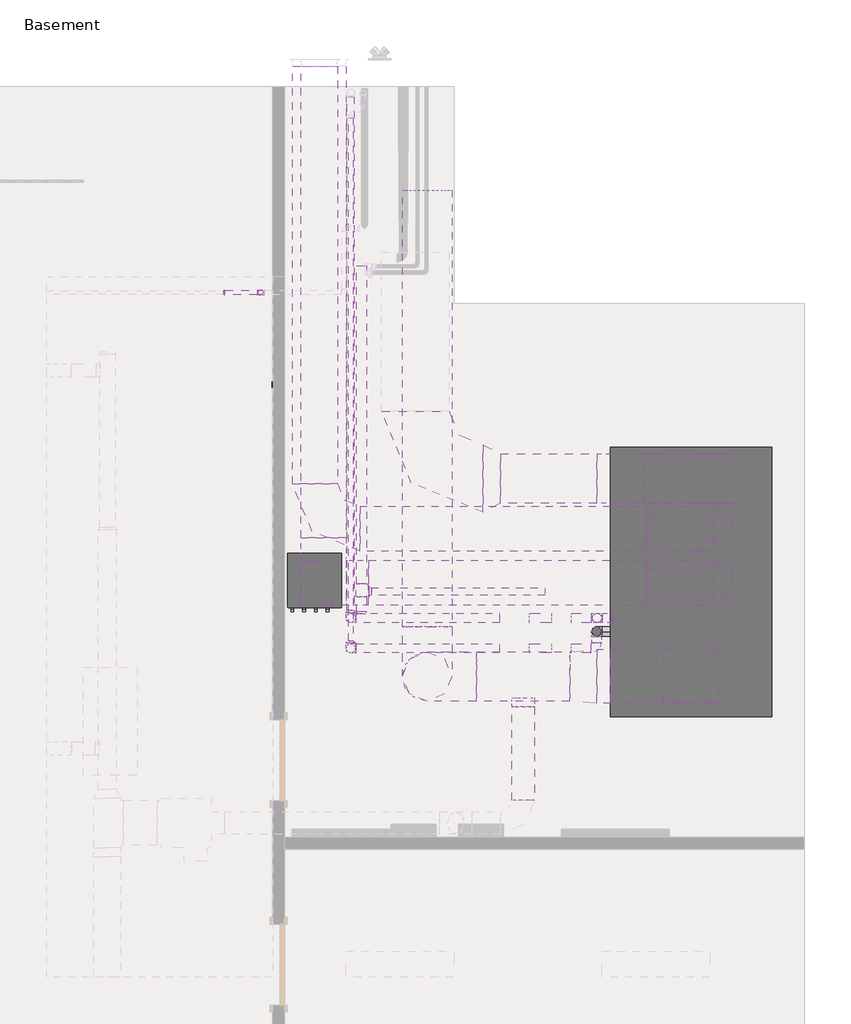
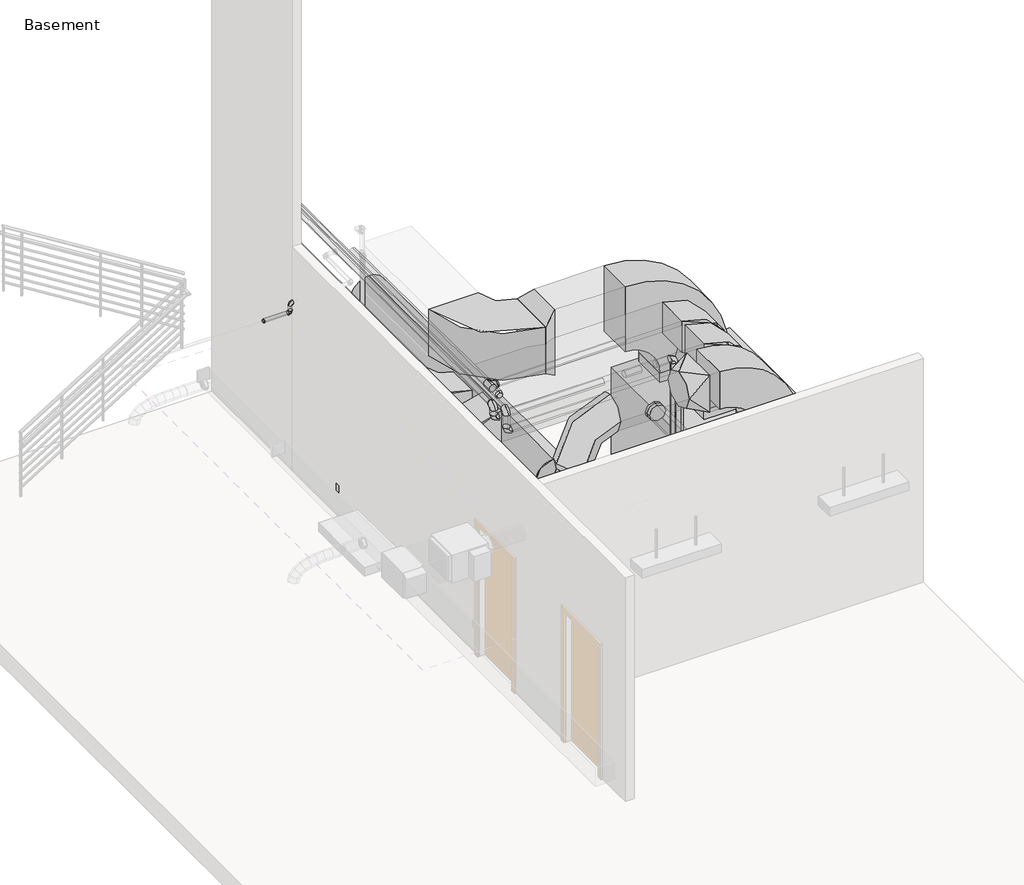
# One storey, part 5 of 6: 20 pipe segments, 18 pipe fittings, 16 duct segments, 15 duct fittings, 4 proxies.
"""IFC4 building model written with IfcOpenShell, lengths in millimetres."""

from ifc_helpers import new_model, si_unit, point, frame, frame_2d, origin, place, context, project, spatial, polyline, circle_curve, trimmed, segment, composite_curve, outline, extrude, transform, mapped, element, save
from components import air_handler_10_ton_c50fa258, proxy_5f9e3781, pipe_dcw_origin_standard_a8ebccfd, receptacle_gfci_367a9a66, rectangular_duct_radius_elbow_1_w_26603e4f, rectangular_duct_radius_elbow_1_w_7e1641f4, rectangular_duct_radius_elbow_1_w_6f893059, rectangular_duct_radius_elbow_1_5_w_59ea73c2, rectangular_duct_transition_standard_a217cb40, rectangular_duct_transition_standard_87278069, rectangular_duct_transition_standard_40ad1b43, rectangular_to_round_duct_transition_standard_41359ecd, round_duct_elbow_1_d_d87bec81, round_duct_takeoff_standard_e5792325, pipe_elbow_standard_764eecca, pipe_elbow1_standard_2_0a98076e, pipe_pvc_short_sanitary_tee1_standard_2_5010286e, pipe_pvc_transition_eccentric_standard_bb942d7d, pipe_pvc_transition_eccentric_standard_b1f971f5, pipe_straight_coupling_standard_a74dfd1f, pipe_transition_eccentric_standard_ae9cfb6a, pipe_transition_eccentric_standard_33081ec6, pipe_transition_eccentric_standard_3b8d3413

model = new_model("IFC4")

# Units and contexts
model_context = context("Model", 3, world=origin())
ifc_project = project(units=[si_unit("LENGTHUNIT", "METRE", prefix="MILLI")], contexts=[model_context])

# Site, building, storey
site = spatial("IfcSite", under=ifc_project)
building = spatial("IfcBuilding", under=site)
storey = spatial("IfcBuildingStorey", under=building, Name="Basement", Elevation=-3657.6)

# Proxies
placement = place(None, origin())
air_handler_10_ton_shape = air_handler_10_ton_c50fa258(model_context)
element("IfcBuildingElementProxy", 1, Name="Air Handler : 10 Ton", ObjectType="Air Handler : 10 Ton", at=placement, inside=storey, context=model_context, shape_type="MappedRepresentation", body=[
    mapped(air_handler_10_ton_shape, transform((4982.2140973, 4309.8635018, -3657.6), x_axis=(0.0, -1.0, 0.0), y_axis=(1.0, 0.0, 0.0), z_axis=(0.0, 0.0, 1.0))),
])
proxy_shape = proxy_5f9e3781(model_context)
element("IfcBuildingElementProxy", 2, Name="Circuit Breaker Switchboard : 24\"x26\"", ObjectType="Circuit Breaker Switchboard : 24\"x26\"", at=placement, inside=storey, context=model_context, shape_type="MappedRepresentation", body=[
    mapped(proxy_shape, transform((1425.7560388, 6332.959643, -3657.6), x_axis=(1.0, 0.0, 0.0), y_axis=(0.0, 1.0, 0.0), z_axis=(0.0, 0.0, 1.0))),
])
pipe_dcw_origin_standard_shape = pipe_dcw_origin_standard_a8ebccfd(model_context)
element("IfcBuildingElementProxy", 3, Name="Pipe Wet Origin : Standard", ObjectType="Pipe Wet Origin : Standard", at=placement, inside=storey, context=model_context, shape_type="MappedRepresentation", body=[
    mapped(pipe_dcw_origin_standard_shape, transform((410.1087426, 9279.359643, -914.4), x_axis=(1.0, 0.0, 0.0), y_axis=(0.0, 1.0, 0.0), z_axis=(0.0, 0.0, 1.0))),
])
receptacle_gfci_shape = receptacle_gfci_367a9a66(model_context)
element("IfcBuildingElementProxy", 4, Name="Receptacle : Standard", ObjectType="Receptacle : Standard", at=placement, inside=storey, context=model_context, shape_type="MappedRepresentation", body=[
    mapped(receptacle_gfci_shape, transform((949.5060388, 8237.959643, -3200.4), x_axis=(0.0, -1.0, 0.0), y_axis=(0.0, 0.0, 1.0), z_axis=(-1.0, 0.0, 0.0))),
])

# Duct fittings
rectangular_duct_radius_elbow_1_w_shape = rectangular_duct_radius_elbow_1_w_26603e4f(model_context)
element("IfcDuctFitting", 5, ObjectType="Rectangular Duct Radius Elbow : 1 W", at=placement, inside=storey, context=model_context, shape_type="MappedRepresentation", body=[
    mapped(rectangular_duct_radius_elbow_1_w_shape, transform((2565.5810388, 7176.0947518, -914.4), x_axis=(0.0, -1.0, 0.0), y_axis=(1.0, 0.0, 0.0), z_axis=(0.0, 0.0, 1.0))),
])
rectangular_duct_radius_elbow_1_w_2_shape = rectangular_duct_radius_elbow_1_w_7e1641f4(model_context)
element("IfcDuctFitting", 6, ObjectType="Rectangular Duct Radius Elbow : 1 W", at=placement, inside=storey, context=model_context, shape_type="MappedRepresentation", body=[
    mapped(rectangular_duct_radius_elbow_1_w_2_shape, transform((5682.6851361, 6610.9447518, -1066.8), x_axis=(0.0, 0.0, 1.0), y_axis=(-1.0, 0.0, 0.0), z_axis=(0.0, -1.0, 0.0))),
])
element("IfcDuctFitting", 7, ObjectType="Rectangular Duct Radius Elbow : 1 W", at=placement, inside=storey, context=model_context, shape_type="MappedRepresentation", body=[
    mapped(rectangular_duct_radius_elbow_1_w_2_shape, transform((1530.393321, 6001.3447518, -1066.8), x_axis=(0.0, 0.0, 1.0), y_axis=(1.0, 0.0, 0.0), z_axis=(0.0, 1.0, 0.0))),
])
element("IfcDuctFitting", 8, ObjectType="Rectangular Duct Radius Elbow : 1 W", at=placement, inside=storey, context=model_context, shape_type="MappedRepresentation", body=[
    mapped(rectangular_duct_radius_elbow_1_w_2_shape, transform((5682.6851361, 6001.3447518, -1066.8), x_axis=(0.0, 0.0, 1.0), y_axis=(-1.0, 0.0, 0.0), z_axis=(0.0, -1.0, 0.0))),
])
element("IfcDuctFitting", 9, ObjectType="Rectangular Duct Radius Elbow : 1 W", at=placement, inside=storey, context=model_context, shape_type="MappedRepresentation", body=[
    mapped(rectangular_duct_radius_elbow_1_w_2_shape, transform((1430.0244701, 6610.9447518, -1066.8), x_axis=(-1.0, 0.0, 0.0), y_axis=(0.0, 1.0, 0.0), z_axis=(0.0, 0.0, -1.0))),
])
element("IfcDuctFitting", 10, ObjectType="Rectangular Duct Radius Elbow : 1 W", at=placement, inside=storey, context=model_context, shape_type="MappedRepresentation", body=[
    mapped(rectangular_duct_radius_elbow_1_w_2_shape, transform((1530.393321, 6001.3447518, -2133.6), x_axis=(0.0, 0.0, -1.0), y_axis=(0.0, 1.0, 0.0), z_axis=(1.0, 0.0, 0.0))),
])
rectangular_duct_radius_elbow_1_w_3_shape = rectangular_duct_radius_elbow_1_w_6f893059(model_context)
element("IfcDuctFitting", 11, ObjectType="Rectangular Duct Radius Elbow : 1 W", at=placement, inside=storey, context=model_context, shape_type="MappedRepresentation", body=[
    mapped(rectangular_duct_radius_elbow_1_w_3_shape, transform((5682.6851361, 7176.0947518, -914.4), x_axis=(0.0, 0.0, 1.0), y_axis=(-1.0, 0.0, 0.0), z_axis=(0.0, -1.0, 0.0))),
])
rectangular_duct_radius_elbow_1_5_w_shape = rectangular_duct_radius_elbow_1_5_w_59ea73c2(model_context)
element("IfcDuctFitting", 12, ObjectType="Rectangular Duct Radius Elbow : 1.5 W", at=placement, inside=storey, context=model_context, shape_type="MappedRepresentation", body=[
    mapped(rectangular_duct_radius_elbow_1_5_w_shape, transform((5682.6851361, 4940.8947518, -762.0), x_axis=(0.0, 0.0, 1.0), y_axis=(-1.0, 0.0, 0.0), z_axis=(0.0, -1.0, 0.0))),
])
rectangular_duct_transition_standard_shape = rectangular_duct_transition_standard_a217cb40(model_context)
element("IfcDuctFitting", 13, ObjectType="Rectangular Duct Transition : Standard", at=placement, inside=storey, context=model_context, shape_type="MappedRepresentation", body=[
    mapped(rectangular_duct_transition_standard_shape, transform((5682.6851361, 6610.9447518, -1981.2), x_axis=(0.0, 0.0, 1.0), y_axis=(-1.0, 0.0, 0.0), z_axis=(0.0, -1.0, 0.0))),
])
rectangular_duct_transition_standard_2_shape = rectangular_duct_transition_standard_87278069(model_context)
element("IfcDuctFitting", 14, ObjectType="Rectangular Duct Transition : Standard", at=placement, inside=storey, context=model_context, shape_type="MappedRepresentation", body=[
    mapped(rectangular_duct_transition_standard_2_shape, transform((5682.6851361, 6001.3447518, -1574.8), x_axis=(0.0, 0.0, -1.0), y_axis=(1.0, 0.0, 0.0), z_axis=(0.0, -1.0, 0.0))),
])
rectangular_duct_transition_standard_3_shape = rectangular_duct_transition_standard_40ad1b43(model_context)
element("IfcDuctFitting", 15, ObjectType="Rectangular Duct Transition : Standard", at=placement, inside=storey, context=model_context, shape_type="MappedRepresentation", body=[
    mapped(rectangular_duct_transition_standard_3_shape, transform((3530.7810388, 7176.0947518, -914.4), x_axis=(-1.0, 0.0, 0.0), y_axis=(0.0, -1.0, 0.0), z_axis=(0.0, 0.0, 1.0))),
])
rectangular_to_round_duct_transition_standard_shape = rectangular_to_round_duct_transition_standard_41359ecd(model_context)
element("IfcDuctFitting", 16, ObjectType="Rectangular To Round Duct Transition : Standard", at=placement, inside=storey, context=model_context, shape_type="MappedRepresentation", body=[
    mapped(rectangular_to_round_duct_transition_standard_shape, transform((4615.8851361, 4940.8947518, -762.0), x_axis=(-1.0, 0.0, 0.0), y_axis=(0.0, 1.0, 0.0), z_axis=(0.0, 0.0, -1.0))),
])
round_duct_elbow_1_d_shape = round_duct_elbow_1_d_d87bec81(model_context)
element("IfcDuctFitting", 17, ObjectType="Round Duct Elbow : 1 D", at=placement, inside=storey, context=model_context, shape_type="MappedRepresentation", body=[
    mapped(round_duct_elbow_1_d_shape, transform((2699.1183521, 4940.8947518, -762.0), x_axis=(-1.0, 0.0, 0.0), y_axis=(0.0, 0.0, -1.0), z_axis=(0.0, -1.0, 0.0))),
])
element("IfcDuctFitting", 18, ObjectType="Round Duct Elbow : 1 D", at=placement, inside=storey, context=model_context, shape_type="MappedRepresentation", body=[
    mapped(round_duct_elbow_1_d_shape, transform((2699.1183521, 4940.8947518, -1960.358655), x_axis=(0.0, 0.0, -1.0), y_axis=(0.0, 1.0, 0.0), z_axis=(1.0, 0.0, 0.0))),
])
round_duct_takeoff_standard_shape = round_duct_takeoff_standard_e5792325(model_context)
element("IfcDuctFitting", 19, ObjectType="Round Duct Takeoff : Standard", at=placement, inside=storey, context=model_context, shape_type="MappedRepresentation", body=[
    mapped(round_duct_takeoff_standard_shape, transform((3784.5017441, 4661.4947518, -762.0), x_axis=(0.0, -1.0, 0.0), y_axis=(-1.0, 0.0, 0.0), z_axis=(0.0, 0.0, -1.0))),
])

# Duct segments
element("IfcDuctSegment", 20, ObjectType="Radius Elbows / Taps", at=placement, inside=storey, context=model_context, shape_type="SweptSolid", body=[
    extrude(outline(polyline([(4768.2851361, 5245.6947518), (4768.2851361, 4636.0947518), (4615.8851361, 4636.0947518), (4615.8851361, 5245.6947518), (4768.2851361, 5245.6947518)])), frame((0.0, 0.0, -1066.8), z_axis=(0.0, 0.0, 1.0), x_axis=(1.0, 0.0, 0.0)), (0.0, 0.0, 1.0), 609.6),
])
element("IfcDuctSegment", 21, ObjectType="Radius Elbows / Taps", at=placement, inside=storey, context=model_context, shape_type="SweptSolid", body=[
    extrude(outline(polyline([(5987.4851361, 4636.0947518), (5377.8851361, 4636.0947518), (5377.8851361, 5245.6947518), (5987.4851361, 5245.6947518), (5987.4851361, 4636.0947518)])), frame((0.0, 0.0, -2133.6), z_axis=(0.0, 0.0, 1.0), x_axis=(1.0, 0.0, 0.0)), (0.0, 0.0, 1.0), 457.2),
])
element("IfcDuctSegment", 22, ObjectType="Radius Elbows / Taps", at=placement, inside=storey, context=model_context, shape_type="SweptSolid", body=[
    extrude(outline(polyline([(1684.0244701, 7118.9447518), (1176.0244701, 7118.9447518), (1176.0244701, 11832.059643), (1684.0244701, 11832.059643), (1684.0244701, 7118.9447518)])), frame((0.0, 0.0, -1320.8), z_axis=(0.0, 0.0, 1.0), x_axis=(1.0, 0.0, 0.0)), (0.0, 0.0, 1.0), 508.0),
])
element("IfcDuctSegment", 23, ObjectType="Radius Elbows / Taps", at=placement, inside=storey, context=model_context, shape_type="SweptSolid", body=[
    extrude(outline(polyline([(6139.8851361, 6763.3447518), (6139.8851361, 6458.5447518), (5225.4851361, 6458.5447518), (5225.4851361, 6763.3447518), (6139.8851361, 6763.3447518)])), frame((0.0, 0.0, -2133.6), z_axis=(0.0, 0.0, 1.0), x_axis=(1.0, 0.0, 0.0)), (0.0, 0.0, 1.0), 152.4),
])
element("IfcDuctSegment", 24, ObjectType="Radius Elbows / Taps", at=placement, inside=storey, context=model_context, shape_type="SweptSolid", body=[
    extrude(outline(polyline([(5174.6851361, 6864.9447518), (5174.6851361, 6356.9447518), (1938.0244701, 6356.9447518), (1938.0244701, 6864.9447518), (5174.6851361, 6864.9447518)])), frame((0.0, 0.0, -1320.8), z_axis=(0.0, 0.0, 1.0), x_axis=(1.0, 0.0, 0.0)), (0.0, 0.0, 1.0), 508.0),
])
element("IfcDuctSegment", 25, ObjectType="Radius Elbows / Taps", at=placement, inside=storey, context=model_context, shape_type="SweptSolid", body=[
    extrude(outline(polyline([(1784.393321, 6509.3447518), (1276.393321, 6509.3447518), (1276.393321, 11832.059643), (1784.393321, 11832.059643), (1784.393321, 6509.3447518)])), frame((0.0, 0.0, -2387.6), z_axis=(0.0, 0.0, 1.0), x_axis=(1.0, 0.0, 0.0)), (0.0, 0.0, 1.0), 508.0),
])
element("IfcDuctSegment", 26, ObjectType="Radius Elbows / Taps", at=placement, inside=storey, context=model_context, shape_type="SweptSolid", body=[
    extrude(outline(polyline([(1276.393321, 5747.3447518), (1276.393321, 6255.3447518), (1784.393321, 6255.3447518), (1784.393321, 5747.3447518), (1276.393321, 5747.3447518)])), frame((0.0, 0.0, -1625.6), z_axis=(0.0, 0.0, 1.0), x_axis=(1.0, 0.0, 0.0)), (0.0, 0.0, 1.0), 50.8),
])
element("IfcDuctSegment", 27, ObjectType="Radius Elbows / Taps", at=placement, inside=storey, context=model_context, shape_type="SweptSolid", body=[
    extrude(outline(polyline([(5225.4851361, 6153.7447518), (6139.8851361, 6153.7447518), (6139.8851361, 5848.9447518), (5225.4851361, 5848.9447518), (5225.4851361, 6153.7447518)])), frame((0.0, 0.0, -2133.6), z_axis=(0.0, 0.0, 1.0), x_axis=(1.0, 0.0, 0.0)), (0.0, 0.0, 1.0), 152.4),
])
element("IfcDuctSegment", 28, ObjectType="Radius Elbows / Taps", at=placement, inside=storey, context=model_context, shape_type="SweptSolid", body=[
    extrude(outline(polyline([(2038.393321, 5747.3447518), (2038.393321, 6255.3447518), (5174.6851361, 6255.3447518), (5174.6851361, 5747.3447518), (2038.393321, 5747.3447518)])), frame((0.0, 0.0, -1320.8), z_axis=(0.0, 0.0, 1.0), x_axis=(1.0, 0.0, 0.0)), (0.0, 0.0, 1.0), 508.0),
])
element("IfcDuctSegment", 29, ObjectType="Radius Elbows / Taps", at=placement, inside=storey, context=model_context, shape_type="SweptSolid", body=[
    extrude(outline(polyline([(5149.2851361, 7452.3197518), (6216.0851361, 7452.3197518), (6216.0851361, 6893.5197518), (5149.2851361, 6893.5197518), (5149.2851361, 7452.3197518)])), frame((0.0, 0.0, -2133.6), z_axis=(0.0, 0.0, 1.0), x_axis=(1.0, 0.0, 0.0)), (0.0, 0.0, 1.0), 152.4),
])
element("IfcDuctSegment", 30, ObjectType="Radius Elbows / Taps", at=placement, inside=storey, context=model_context, shape_type="SweptSolid", body=[
    extrude(outline(polyline([(6216.0851361, 6896.6947518), (5149.2851361, 6896.6947518), (5149.2851361, 7455.4947518), (6216.0851361, 7455.4947518), (6216.0851361, 6896.6947518)])), frame((0.0, 0.0, -2133.6), z_axis=(0.0, 0.0, 1.0), x_axis=(1.0, 0.0, 0.0)), (0.0, 0.0, 1.0), 152.4),
])
element("IfcDuctSegment", 31, ObjectType="Radius Elbows / Taps", at=placement, inside=storey, context=model_context, shape_type="SweptSolid", body=[
    extrude(outline(polyline([(3530.7810388, 6896.6947518), (3530.7810388, 7455.4947518), (4615.8851361, 7455.4947518), (4615.8851361, 6896.6947518), (3530.7810388, 6896.6947518)])), frame((0.0, 0.0, -1447.8), z_axis=(0.0, 0.0, 1.0), x_axis=(1.0, 0.0, 0.0)), (0.0, 0.0, 1.0), 1066.8),
])
element("IfcDuctSegment", 32, ObjectType="Taps / Short Radius", at=placement, inside=storey, context=model_context, shape_type="SweptSolid", body=[
    extrude(outline(composite_curve([segment(trimmed(circle_curve(frame_2d((4940.8947518, -762.0)), 279.4), [point((5220.2947518, -762.0))], [point((4940.8947518, -1041.4))], False, "CARTESIAN"), True, "CONTINUOUS"), segment(trimmed(circle_curve(frame_2d((4940.8947518, -762.0)), 279.4), [point((4940.8947518, -1041.4))], [point((4661.4947518, -762.0))], False, "CARTESIAN"), True, "CONTINUOUS"), segment(trimmed(circle_curve(frame_2d((4940.8947518, -762.0)), 279.4), [point((4661.4947518, -762.0))], [point((4940.8947518, -482.6))], False, "CARTESIAN"), True, "CONTINUOUS"), segment(trimmed(circle_curve(frame_2d((4940.8947518, -762.0)), 279.4), [point((4940.8947518, -482.6))], [point((5220.2947518, -762.0))], False, "CARTESIAN"), True, "CONTINUOUS")], self_intersect=False)), frame((3257.9183521, 0.0, 0.0), z_axis=(1.0, 0.0, 0.0), x_axis=(0.0, 1.0, 0.0)), (0.0, 0.0, 1.0), 1053.166784),
])
element("IfcDuctSegment", 33, ObjectType="Taps / Short Radius", at=placement, inside=storey, context=model_context, shape_type="SweptSolid", body=[
    extrude(outline(composite_curve([segment(trimmed(circle_curve(frame_2d((-1960.358655, 2699.1183521)), 279.4), [point((-1960.358655, 2419.7183521))], [point((-2239.758655, 2699.1183521))], False, "CARTESIAN"), True, "CONTINUOUS"), segment(trimmed(circle_curve(frame_2d((-1960.358655, 2699.1183521)), 279.4), [point((-2239.758655, 2699.1183521))], [point((-1960.358655, 2978.5183521))], False, "CARTESIAN"), True, "CONTINUOUS"), segment(trimmed(circle_curve(frame_2d((-1960.358655, 2699.1183521)), 279.4), [point((-1960.358655, 2978.5183521))], [point((-1680.958655, 2699.1183521))], False, "CARTESIAN"), True, "CONTINUOUS"), segment(trimmed(circle_curve(frame_2d((-1960.358655, 2699.1183521)), 279.4), [point((-1680.958655, 2699.1183521))], [point((-1960.358655, 2419.7183521))], False, "CARTESIAN"), True, "CONTINUOUS")], self_intersect=False)), frame((0.0, 5499.6947518, 0.0), z_axis=(0.0, 1.0, 0.0), x_axis=(0.0, 0.0, 1.0)), (0.0, 0.0, 1.0), 4935.2590345),
])
element("IfcDuctSegment", 34, ObjectType="Taps / Short Radius", at=placement, inside=storey, context=model_context, shape_type="SweptSolid", body=[
    extrude(outline(composite_curve([segment(trimmed(circle_curve(frame_2d((2699.1183521, 4940.8947518)), 279.4), [point((2419.7183521, 4940.8947518))], [point((2699.1183521, 5220.2947518))], False, "CARTESIAN"), True, "CONTINUOUS"), segment(trimmed(circle_curve(frame_2d((2699.1183521, 4940.8947518)), 279.4), [point((2699.1183521, 5220.2947518))], [point((2978.5183521, 4940.8947518))], False, "CARTESIAN"), True, "CONTINUOUS"), segment(trimmed(circle_curve(frame_2d((2699.1183521, 4940.8947518)), 279.4), [point((2978.5183521, 4940.8947518))], [point((2699.1183521, 4661.4947518))], False, "CARTESIAN"), True, "CONTINUOUS"), segment(trimmed(circle_curve(frame_2d((2699.1183521, 4940.8947518)), 279.4), [point((2699.1183521, 4661.4947518))], [point((2419.7183521, 4940.8947518))], False, "CARTESIAN"), True, "CONTINUOUS")], self_intersect=False)), frame((0.0, 0.0, -1401.558655), z_axis=(0.0, 0.0, 1.0), x_axis=(1.0, 0.0, 0.0)), (0.0, 0.0, 1.0), 80.758655),
])
element("IfcDuctSegment", 35, ObjectType="Taps / Short Radius", at=placement, inside=storey, context=model_context, shape_type="SweptSolid", body=[
    extrude(outline(composite_curve([segment(trimmed(circle_curve(frame_2d((-762.0, 3784.5017441)), 127.0), [point((-762.0, 3657.5017441))], [point((-889.0, 3784.5017441))], False, "CARTESIAN"), True, "CONTINUOUS"), segment(trimmed(circle_curve(frame_2d((-762.0, 3784.5017441)), 127.0), [point((-889.0, 3784.5017441))], [point((-762.0, 3911.5017441))], False, "CARTESIAN"), True, "CONTINUOUS"), segment(trimmed(circle_curve(frame_2d((-762.0, 3784.5017441)), 127.0), [point((-762.0, 3911.5017441))], [point((-635.0, 3784.5017441))], False, "CARTESIAN"), True, "CONTINUOUS"), segment(trimmed(circle_curve(frame_2d((-762.0, 3784.5017441)), 127.0), [point((-635.0, 3784.5017441))], [point((-762.0, 3657.5017441))], False, "CARTESIAN"), True, "CONTINUOUS")], self_intersect=False)), frame((0.0, 3540.7197518, 0.0), z_axis=(0.0, 1.0, 0.0), x_axis=(0.0, 0.0, 1.0)), (0.0, 0.0, 1.0), 1057.275),
])

# Pipe fittings
pipe_elbow_standard_shape = pipe_elbow_standard_764eecca(model_context)
element("IfcPipeFitting", 36, ObjectType="Pipe Elbow1 : Standard 2", at=placement, inside=storey, context=model_context, shape_type="MappedRepresentation", body=[
    mapped(pipe_elbow_standard_shape, transform((817.7787426, 9279.359643, -914.4), x_axis=(1.0, 0.0, 0.0), y_axis=(0.0, 0.0, 1.0), z_axis=(0.0, -1.0, 0.0))),
])
element("IfcPipeFitting", 37, ObjectType="Pipe Elbow1 : Standard 2", at=placement, inside=storey, context=model_context, shape_type="MappedRepresentation", body=[
    mapped(pipe_elbow_standard_shape, transform((817.7787426, 9279.359643, -762.0), x_axis=(0.0, 0.0, 1.0), y_axis=(1.0, 0.0, 0.0), z_axis=(0.0, 1.0, 0.0))),
])
pipe_elbow1_standard_2_shape = pipe_elbow1_standard_2_0a98076e(model_context)
element("IfcPipeFitting", 38, ObjectType="Pipe Elbow1 : Standard 2", at=placement, inside=storey, context=model_context, shape_type="MappedRepresentation", body=[
    mapped(pipe_elbow1_standard_2_shape, transform((4620.2640973, 5601.2947518, -2286.0), x_axis=(-1.0, 0.0, 0.0), y_axis=(0.0, 0.0, 1.0), z_axis=(0.0, 1.0, 0.0))),
])
element("IfcPipeFitting", 39, ObjectType="Pipe Elbow1 : Standard 2", at=placement, inside=storey, context=model_context, shape_type="MappedRepresentation", body=[
    mapped(pipe_elbow1_standard_2_shape, transform((1835.7890973, 5601.2947518, -558.8), x_axis=(0.0, 0.0, 1.0), y_axis=(0.0, 1.0, 0.0), z_axis=(-1.0, 0.0, 0.0))),
])
element("IfcPipeFitting", 40, ObjectType="Pipe Elbow1 : Standard 2", at=placement, inside=storey, context=model_context, shape_type="MappedRepresentation", body=[
    mapped(pipe_elbow1_standard_2_shape, transform((4613.9140973, 5448.8947518, -3454.4), x_axis=(-1.0, 0.0, 0.0), y_axis=(0.0, 0.0, 1.0), z_axis=(0.0, 1.0, 0.0))),
])
element("IfcPipeFitting", 41, ObjectType="Pipe Elbow1 : Standard 2", at=placement, inside=storey, context=model_context, shape_type="MappedRepresentation", body=[
    mapped(pipe_elbow1_standard_2_shape, transform((1835.7890973, 5258.3947518, -431.8), x_axis=(0.0, 0.0, 1.0), y_axis=(0.0, 1.0, 0.0), z_axis=(-1.0, 0.0, 0.0))),
])
element("IfcPipeFitting", 42, ObjectType="Pipe Elbow1 : Standard 2", at=placement, inside=storey, context=model_context, shape_type="MappedRepresentation", body=[
    mapped(pipe_elbow1_standard_2_shape, transform((4613.9140973, 5448.8947518, -762.0), x_axis=(0.0, 0.0, 1.0), y_axis=(0.0, -1.0, 0.0), z_axis=(1.0, 0.0, 0.0))),
])
element("IfcPipeFitting", 43, ObjectType="Pipe Elbow1 : Standard 2", at=placement, inside=storey, context=model_context, shape_type="MappedRepresentation", body=[
    mapped(pipe_elbow1_standard_2_shape, transform((4613.9140973, 5258.3947518, -762.0), x_axis=(0.0, -1.0, 0.0), y_axis=(-1.0, 0.0, 0.0), z_axis=(0.0, 0.0, -1.0))),
])
element("IfcPipeFitting", 44, ObjectType="Pipe Elbow1 : Standard 2", at=placement, inside=storey, context=model_context, shape_type="MappedRepresentation", body=[
    mapped(pipe_elbow1_standard_2_shape, transform((4620.2640973, 5601.2947518, -762.0), x_axis=(0.0, 0.0, 1.0), y_axis=(-1.0, 0.0, 0.0), z_axis=(0.0, -1.0, 0.0))),
])
element("IfcPipeFitting", 45, ObjectType="Pipe Elbow1 : Standard 2", at=placement, inside=storey, context=model_context, shape_type="MappedRepresentation", body=[
    mapped(pipe_elbow1_standard_2_shape, transform((1835.7890973, 5601.2947518, -762.0), x_axis=(0.0, 0.0, -1.0), y_axis=(1.0, 0.0, 0.0), z_axis=(0.0, -1.0, 0.0))),
])
element("IfcPipeFitting", 46, ObjectType="Pipe Elbow1 : Standard 2", at=placement, inside=storey, context=model_context, shape_type="MappedRepresentation", body=[
    mapped(pipe_elbow1_standard_2_shape, transform((1835.7890973, 5258.3947518, -762.0), x_axis=(0.0, 0.0, -1.0), y_axis=(1.0, 0.0, 0.0), z_axis=(0.0, -1.0, 0.0))),
])
pipe_pvc_short_sanitary_tee1_standard_2_shape = pipe_pvc_short_sanitary_tee1_standard_2_5010286e(model_context)
element("IfcPipeFitting", 47, ObjectType="Pipe PVC Short Sanitary Tee1 : Standard 2", at=placement, inside=storey, context=model_context, shape_type="MappedRepresentation", body=[
    mapped(pipe_pvc_short_sanitary_tee1_standard_2_shape, transform((1956.0654371, 5901.1630952, -470.7337707), x_axis=(0.0, -0.9999457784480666, 0.010413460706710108), y_axis=(0.999937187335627, 0.0001167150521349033, 0.011207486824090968), z_axis=(-0.01120809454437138, 0.010412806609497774, 0.9998829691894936))),
])
pipe_pvc_transition_eccentric_standard_shape = pipe_pvc_transition_eccentric_standard_bb942d7d(model_context)
element("IfcPipeFitting", 48, ObjectType="Pipe PVC Transition Eccentric : Standard", at=placement, inside=storey, context=model_context, shape_type="MappedRepresentation", body=[
    mapped(pipe_pvc_transition_eccentric_standard_shape, transform((2041.7750472, 5901.1630952, -469.7730168), x_axis=(0.9999371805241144, 0.0, 0.011208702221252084), y_axis=(0.00011671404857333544, 0.9999457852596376, -0.010412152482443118), z_axis=(-0.01120809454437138, 0.010412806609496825, 0.9998829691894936))),
])
pipe_pvc_transition_eccentric_standard_2_shape = pipe_pvc_transition_eccentric_standard_b1f971f5(model_context)
element("IfcPipeFitting", 49, ObjectType="Pipe PVC Transition Eccentric : Standard", at=placement, inside=storey, context=model_context, shape_type="MappedRepresentation", body=[
    mapped(pipe_pvc_transition_eccentric_standard_2_shape, transform((1956.0654371, 5674.1712617, -468.369872), x_axis=(0.0, -0.999945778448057, 0.01041346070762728), y_axis=(-1.0, 0.0, 0.0), z_axis=(0.0, -0.01041346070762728, -0.999945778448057))),
])
pipe_straight_coupling_standard_shape = pipe_straight_coupling_standard_a74dfd1f(model_context)
element("IfcPipeFitting", 50, ObjectType="Pipe Straight Coupling : Standard", at=placement, inside=storey, context=model_context, shape_type="MappedRepresentation", body=[
    mapped(pipe_straight_coupling_standard_shape, transform((4791.7140973, 5601.2947518, -2286.0), x_axis=(-1.0, 0.0, 0.0), y_axis=(0.0, -1.0, 0.0), z_axis=(0.0, 0.0, 1.0))),
])
pipe_transition_eccentric_standard_shape = pipe_transition_eccentric_standard_ae9cfb6a(model_context)
element("IfcPipeFitting", 51, ObjectType="Pipe Transition Eccentric : Standard", at=placement, inside=storey, context=model_context, shape_type="MappedRepresentation", body=[
    mapped(pipe_transition_eccentric_standard_shape, transform((1835.7890973, 5320.3072518, -431.8), x_axis=(0.0, 1.0, 0.0), y_axis=(-1.0, 0.0, 0.0), z_axis=(0.0, 0.0, 1.0))),
])
pipe_transition_eccentric_standard_2_shape = pipe_transition_eccentric_standard_33081ec6(model_context)
element("IfcPipeFitting", 52, ObjectType="Pipe Transition Eccentric : Standard", at=placement, inside=storey, context=model_context, shape_type="MappedRepresentation", body=[
    mapped(pipe_transition_eccentric_standard_2_shape, transform((1835.7890973, 5663.2072518, -558.8), x_axis=(0.0, 1.0, 0.0), y_axis=(-1.0, 0.0, 0.0), z_axis=(0.0, 0.0, 1.0))),
])
pipe_transition_eccentric_standard_3_shape = pipe_transition_eccentric_standard_3b8d3413(model_context)
element("IfcPipeFitting", 53, ObjectType="Pipe Transition Eccentric : Standard", at=placement, inside=storey, context=model_context, shape_type="MappedRepresentation", body=[
    mapped(pipe_transition_eccentric_standard_3_shape, transform((410.1087426, 9279.359643, -914.4), x_axis=(-1.0, 0.0, 0.0), y_axis=(0.0, -1.0, 0.0), z_axis=(0.0, 0.0, 1.0))),
])

# Pipe segments
element("IfcPipeSegment", 54, ObjectType="PVC", at=placement, inside=storey, context=model_context, shape_type="SweptSolid", body=[
    extrude(outline(composite_curve([segment(trimmed(circle_curve(frame_2d((0.0, 57.15)), 57.15), [point((-57.15, 57.15))], [point((0.0, 114.3))], False, "CARTESIAN"), True, "CONTINUOUS"), segment(trimmed(circle_curve(frame_2d((0.0, 57.15)), 57.15), [point((0.0, 114.3))], [point((57.15, 57.15))], False, "CARTESIAN"), True, "CONTINUOUS"), segment(trimmed(circle_curve(frame_2d((0.0, 57.15)), 57.15), [point((57.15, 57.15))], [point((0.0, 0.0))], False, "CARTESIAN"), True, "CONTINUOUS"), segment(trimmed(circle_curve(frame_2d((0.0, 57.15)), 57.15), [point((0.0, 0.0))], [point((-57.15, 57.15))], False, "CARTESIAN"), True, "CONTINUOUS")], self_intersect=False)), frame((1956.0654371, 5840.2362326, -527.2523757), z_axis=(0.0, -0.9999457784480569, 0.010413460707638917), x_axis=(1.0, 0.0, 0.0)), (0.0, 0.0, 1.0), 166.6691372),
])
element("IfcPipeSegment", 55, ObjectType="PVC", at=placement, inside=storey, context=model_context, shape_type="SweptSolid", body=[
    extrude(outline(composite_curve([segment(trimmed(circle_curve(frame_2d((0.0, 57.1500001)), 57.15), [point((-57.15, 57.1500001))], [point((0.0, 114.3))], False, "CARTESIAN"), True, "CONTINUOUS"), segment(trimmed(circle_curve(frame_2d((0.0, 57.1500001)), 57.15), [point((0.0, 114.3))], [point((57.15, 57.1500001))], False, "CARTESIAN"), True, "CONTINUOUS"), segment(trimmed(circle_curve(frame_2d((0.0, 57.1500001)), 57.15), [point((57.15, 57.1500001))], [point((0.0, 0.0))], False, "CARTESIAN"), True, "CONTINUOUS"), segment(trimmed(circle_curve(frame_2d((0.0, 57.1500001)), 57.15), [point((0.0, 0.0))], [point((-57.15, 57.1500001))], False, "CARTESIAN"), True, "CONTINUOUS")], self_intersect=False)), frame((1956.0654371, 9580.8062671, -566.206767), z_axis=(0.0, -0.9999457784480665, 0.010413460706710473), x_axis=(1.0, 0.0, 0.0)), (0.0, 0.0, 1.0), 3594.7228656),
])
element("IfcPipeSegment", 56, ObjectType="PVC", at=placement, inside=storey, context=model_context, shape_type="SweptSolid", body=[
    extrude(outline(composite_curve([segment(trimmed(circle_curve(frame_2d((0.0, -44.45)), 44.45), [point((0.4628492, -0.0024099))], [point((44.4475901, -44.9128493))], False, "CARTESIAN"), True, "CONTINUOUS"), segment(trimmed(circle_curve(frame_2d((0.0, -44.45)), 44.45), [point((44.4475901, -44.9128493))], [point((-0.4628493, -88.8975902))], False, "CARTESIAN"), True, "CONTINUOUS"), segment(trimmed(circle_curve(frame_2d((0.0, -44.45)), 44.45), [point((-0.4628493, -88.8975902))], [point((-44.4475902, -43.9871508))], False, "CARTESIAN"), True, "CONTINUOUS"), segment(trimmed(circle_curve(frame_2d((0.0, -44.45)), 44.45), [point((-44.4475902, -43.9871508))], [point((0.4628492, -0.0024099))], False, "CARTESIAN"), True, "CONTINUOUS")], self_intersect=False)), frame((2070.3482521, 5945.6130952, -469.4527282), z_axis=(0.9999371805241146, 0.0, 0.011208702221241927), x_axis=(0.011208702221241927, 0.0, -0.9999371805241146)), (0.0, 0.0, 1.0), 1962.2285506),
])
element("IfcPipeSegment", 57, ObjectType="Standard", at=placement, inside=storey, context=model_context, shape_type="SweptSolid", body=[
    extrude(outline(composite_curve([segment(trimmed(circle_curve(frame_2d((5601.2947518, -2286.0)), 52.3875), [point((5653.6822518, -2286.0))], [point((5601.2947518, -2338.3875))], False, "CARTESIAN"), True, "CONTINUOUS"), segment(trimmed(circle_curve(frame_2d((5601.2947518, -2286.0)), 52.3875), [point((5601.2947518, -2338.3875))], [point((5548.9072518, -2286.0))], False, "CARTESIAN"), True, "CONTINUOUS"), segment(trimmed(circle_curve(frame_2d((5601.2947518, -2286.0)), 52.3875), [point((5548.9072518, -2286.0))], [point((5601.2947518, -2233.6125))], False, "CARTESIAN"), True, "CONTINUOUS"), segment(trimmed(circle_curve(frame_2d((5601.2947518, -2286.0)), 52.3875), [point((5601.2947518, -2233.6125))], [point((5653.6822518, -2286.0))], False, "CARTESIAN"), True, "CONTINUOUS")], self_intersect=False)), frame((4682.1765973, 0.0, 0.0), z_axis=(1.0, 0.0, 0.0), x_axis=(0.0, 1.0, 0.0)), (0.0, 0.0, 1.0), 112.7125),
])
element("IfcPipeSegment", 58, ObjectType="Standard", at=placement, inside=storey, context=model_context, shape_type="SweptSolid", body=[
    extrude(outline(composite_curve([segment(trimmed(circle_curve(frame_2d((4620.2640973, 5601.2947518)), 52.3875), [point((4672.6515973, 5601.2947518))], [point((4620.2640973, 5548.9072518))], False, "CARTESIAN"), True, "CONTINUOUS"), segment(trimmed(circle_curve(frame_2d((4620.2640973, 5601.2947518)), 52.3875), [point((4620.2640973, 5548.9072518))], [point((4567.8765973, 5601.2947518))], False, "CARTESIAN"), True, "CONTINUOUS"), segment(trimmed(circle_curve(frame_2d((4620.2640973, 5601.2947518)), 52.3875), [point((4567.8765973, 5601.2947518))], [point((4620.2640973, 5653.6822518))], False, "CARTESIAN"), True, "CONTINUOUS"), segment(trimmed(circle_curve(frame_2d((4620.2640973, 5601.2947518)), 52.3875), [point((4620.2640973, 5653.6822518))], [point((4672.6515973, 5601.2947518))], False, "CARTESIAN"), True, "CONTINUOUS")], self_intersect=False)), frame((0.0, 0.0, -2224.0875), z_axis=(0.0, 0.0, 1.0), x_axis=(1.0, 0.0, 0.0)), (0.0, 0.0, 1.0), 1400.175),
])
element("IfcPipeSegment", 59, ObjectType="Standard", at=placement, inside=storey, context=model_context, shape_type="SweptSolid", body=[
    extrude(outline(composite_curve([segment(trimmed(circle_curve(frame_2d((5601.2947518, -762.0)), 52.3875), [point((5548.9072518, -762.0))], [point((5601.2947518, -709.6125))], False, "CARTESIAN"), True, "CONTINUOUS"), segment(trimmed(circle_curve(frame_2d((5601.2947518, -762.0)), 52.3875), [point((5601.2947518, -709.6125))], [point((5653.6822518, -762.0))], False, "CARTESIAN"), True, "CONTINUOUS"), segment(trimmed(circle_curve(frame_2d((5601.2947518, -762.0)), 52.3875), [point((5653.6822518, -762.0))], [point((5601.2947518, -814.3875))], False, "CARTESIAN"), True, "CONTINUOUS"), segment(trimmed(circle_curve(frame_2d((5601.2947518, -762.0)), 52.3875), [point((5601.2947518, -814.3875))], [point((5548.9072518, -762.0))], False, "CARTESIAN"), True, "CONTINUOUS")], self_intersect=False)), frame((1897.7015973, 0.0, 0.0), z_axis=(1.0, 0.0, 0.0), x_axis=(0.0, 1.0, 0.0)), (0.0, 0.0, 1.0), 1620.5412522),
])
element("IfcPipeSegment", 60, ObjectType="Standard", at=placement, inside=storey, context=model_context, shape_type="SweptSolid", body=[
    extrude(outline(composite_curve([segment(trimmed(circle_curve(frame_2d((1835.7890973, 5601.2947518)), 52.3875), [point((1888.1765973, 5601.2947518))], [point((1835.7890973, 5548.9072518))], False, "CARTESIAN"), True, "CONTINUOUS"), segment(trimmed(circle_curve(frame_2d((1835.7890973, 5601.2947518)), 52.3875), [point((1835.7890973, 5548.9072518))], [point((1783.4015973, 5601.2947518))], False, "CARTESIAN"), True, "CONTINUOUS"), segment(trimmed(circle_curve(frame_2d((1835.7890973, 5601.2947518)), 52.3875), [point((1783.4015973, 5601.2947518))], [point((1835.7890973, 5653.6822518))], False, "CARTESIAN"), True, "CONTINUOUS"), segment(trimmed(circle_curve(frame_2d((1835.7890973, 5601.2947518)), 52.3875), [point((1835.7890973, 5653.6822518))], [point((1888.1765973, 5601.2947518))], False, "CARTESIAN"), True, "CONTINUOUS")], self_intersect=False)), frame((0.0, 0.0, -700.0875), z_axis=(0.0, 0.0, 1.0), x_axis=(1.0, 0.0, 0.0)), (0.0, 0.0, 1.0), 79.375),
])
element("IfcPipeSegment", 61, ObjectType="Standard", at=placement, inside=storey, context=model_context, shape_type="SweptSolid", body=[
    extrude(outline(composite_curve([segment(trimmed(circle_curve(frame_2d((-558.8, 1835.7890973)), 39.6875), [point((-558.8, 1875.4765973))], [point((-519.1125, 1835.7890973))], False, "CARTESIAN"), True, "CONTINUOUS"), segment(trimmed(circle_curve(frame_2d((-558.8, 1835.7890973)), 39.6875), [point((-519.1125, 1835.7890973))], [point((-558.8, 1796.1015973))], False, "CARTESIAN"), True, "CONTINUOUS"), segment(trimmed(circle_curve(frame_2d((-558.8, 1835.7890973)), 39.6875), [point((-558.8, 1796.1015973))], [point((-598.4875, 1835.7890973))], False, "CARTESIAN"), True, "CONTINUOUS"), segment(trimmed(circle_curve(frame_2d((-558.8, 1835.7890973)), 39.6875), [point((-598.4875, 1835.7890973))], [point((-558.8, 1875.4765973))], False, "CARTESIAN"), True, "CONTINUOUS")], self_intersect=False)), frame((0.0, 5689.4010018, 0.0), z_axis=(0.0, 1.0, 0.0), x_axis=(0.0, 0.0, 1.0)), (0.0, 0.0, 1.0), 5799.93125),
])
element("IfcPipeSegment", 62, ObjectType="Standard", at=placement, inside=storey, context=model_context, shape_type="SweptSolid", body=[
    extrude(outline(composite_curve([segment(trimmed(circle_curve(frame_2d((5448.8947518, -3454.4)), 52.3875), [point((5501.2822518, -3454.4))], [point((5448.8947518, -3506.7875))], False, "CARTESIAN"), True, "CONTINUOUS"), segment(trimmed(circle_curve(frame_2d((5448.8947518, -3454.4)), 52.3875), [point((5448.8947518, -3506.7875))], [point((5396.5072518, -3454.4))], False, "CARTESIAN"), True, "CONTINUOUS"), segment(trimmed(circle_curve(frame_2d((5448.8947518, -3454.4)), 52.3875), [point((5396.5072518, -3454.4))], [point((5448.8947518, -3402.0125))], False, "CARTESIAN"), True, "CONTINUOUS"), segment(trimmed(circle_curve(frame_2d((5448.8947518, -3454.4)), 52.3875), [point((5448.8947518, -3402.0125))], [point((5501.2822518, -3454.4))], False, "CARTESIAN"), True, "CONTINUOUS")], self_intersect=False)), frame((4675.8265973, 0.0, 0.0), z_axis=(1.0, 0.0, 0.0), x_axis=(0.0, 1.0, 0.0)), (0.0, 0.0, 1.0), 119.0625),
])
element("IfcPipeSegment", 63, ObjectType="Standard", at=placement, inside=storey, context=model_context, shape_type="SweptSolid", body=[
    extrude(outline(composite_curve([segment(trimmed(circle_curve(frame_2d((4613.9140973, 5448.8947518)), 52.3875), [point((4613.9140973, 5501.2822518))], [point((4666.3015973, 5448.8947518))], False, "CARTESIAN"), True, "CONTINUOUS"), segment(trimmed(circle_curve(frame_2d((4613.9140973, 5448.8947518)), 52.3875), [point((4666.3015973, 5448.8947518))], [point((4613.9140973, 5396.5072518))], False, "CARTESIAN"), True, "CONTINUOUS"), segment(trimmed(circle_curve(frame_2d((4613.9140973, 5448.8947518)), 52.3875), [point((4613.9140973, 5396.5072518))], [point((4561.5265973, 5448.8947518))], False, "CARTESIAN"), True, "CONTINUOUS"), segment(trimmed(circle_curve(frame_2d((4613.9140973, 5448.8947518)), 52.3875), [point((4561.5265973, 5448.8947518))], [point((4613.9140973, 5501.2822518))], False, "CARTESIAN"), True, "CONTINUOUS")], self_intersect=False)), frame((0.0, 0.0, -3392.4875), z_axis=(0.0, 0.0, 1.0), x_axis=(1.0, 0.0, 0.0)), (0.0, 0.0, 1.0), 2568.575),
])
element("IfcPipeSegment", 64, ObjectType="Standard", at=placement, inside=storey, context=model_context, shape_type="SweptSolid", body=[
    extrude(outline(composite_curve([segment(trimmed(circle_curve(frame_2d((5258.3947518, -762.0)), 52.3875), [point((5206.0072518, -762.0))], [point((5258.3947518, -709.6125))], False, "CARTESIAN"), True, "CONTINUOUS"), segment(trimmed(circle_curve(frame_2d((5258.3947518, -762.0)), 52.3875), [point((5258.3947518, -709.6125))], [point((5310.7822518, -762.0))], False, "CARTESIAN"), True, "CONTINUOUS"), segment(trimmed(circle_curve(frame_2d((5258.3947518, -762.0)), 52.3875), [point((5310.7822518, -762.0))], [point((5258.3947518, -814.3875))], False, "CARTESIAN"), True, "CONTINUOUS"), segment(trimmed(circle_curve(frame_2d((5258.3947518, -762.0)), 52.3875), [point((5258.3947518, -814.3875))], [point((5206.0072518, -762.0))], False, "CARTESIAN"), True, "CONTINUOUS")], self_intersect=False)), frame((1897.7015973, 0.0, 0.0), z_axis=(1.0, 0.0, 0.0), x_axis=(0.0, 1.0, 0.0)), (0.0, 0.0, 1.0), 1620.5412522),
])
element("IfcPipeSegment", 65, ObjectType="Standard", at=placement, inside=storey, context=model_context, shape_type="SweptSolid", body=[
    extrude(outline(composite_curve([segment(trimmed(circle_curve(frame_2d((1835.7890973, 5258.3947518)), 52.3875), [point((1888.1765973, 5258.3947518))], [point((1835.7890973, 5206.0072518))], False, "CARTESIAN"), True, "CONTINUOUS"), segment(trimmed(circle_curve(frame_2d((1835.7890973, 5258.3947518)), 52.3875), [point((1835.7890973, 5206.0072518))], [point((1783.4015973, 5258.3947518))], False, "CARTESIAN"), True, "CONTINUOUS"), segment(trimmed(circle_curve(frame_2d((1835.7890973, 5258.3947518)), 52.3875), [point((1783.4015973, 5258.3947518))], [point((1835.7890973, 5310.7822518))], False, "CARTESIAN"), True, "CONTINUOUS"), segment(trimmed(circle_curve(frame_2d((1835.7890973, 5258.3947518)), 52.3875), [point((1835.7890973, 5310.7822518))], [point((1888.1765973, 5258.3947518))], False, "CARTESIAN"), True, "CONTINUOUS")], self_intersect=False)), frame((0.0, 0.0, -700.0875), z_axis=(0.0, 0.0, 1.0), x_axis=(1.0, 0.0, 0.0)), (0.0, 0.0, 1.0), 206.375),
])
element("IfcPipeSegment", 66, ObjectType="Standard", at=placement, inside=storey, context=model_context, shape_type="SweptSolid", body=[
    extrude(outline(composite_curve([segment(trimmed(circle_curve(frame_2d((-431.8, 1835.7890973)), 26.9875), [point((-431.8, 1862.7765973))], [point((-404.8125, 1835.7890973))], False, "CARTESIAN"), True, "CONTINUOUS"), segment(trimmed(circle_curve(frame_2d((-431.8, 1835.7890973)), 26.9875), [point((-404.8125, 1835.7890973))], [point((-431.8, 1808.8015973))], False, "CARTESIAN"), True, "CONTINUOUS"), segment(trimmed(circle_curve(frame_2d((-431.8, 1835.7890973)), 26.9875), [point((-431.8, 1808.8015973))], [point((-458.7875, 1835.7890973))], False, "CARTESIAN"), True, "CONTINUOUS"), segment(trimmed(circle_curve(frame_2d((-431.8, 1835.7890973)), 26.9875), [point((-458.7875, 1835.7890973))], [point((-431.8, 1862.7765973))], False, "CARTESIAN"), True, "CONTINUOUS")], self_intersect=False)), frame((0.0, 5346.5010018, 0.0), z_axis=(0.0, 1.0, 0.0), x_axis=(0.0, 0.0, 1.0)), (0.0, 0.0, 1.0), 5907.1880376),
])
element("IfcPipeSegment", 67, ObjectType="Standard", at=placement, inside=storey, context=model_context, shape_type="SweptSolid", body=[
    extrude(outline(composite_curve([segment(trimmed(circle_curve(frame_2d((5258.3947518, -762.0)), 52.3875), [point((5310.7822518, -762.0))], [point((5258.3947518, -814.3875))], False, "CARTESIAN"), True, "CONTINUOUS"), segment(trimmed(circle_curve(frame_2d((5258.3947518, -762.0)), 52.3875), [point((5258.3947518, -814.3875))], [point((5206.0072518, -762.0))], False, "CARTESIAN"), True, "CONTINUOUS"), segment(trimmed(circle_curve(frame_2d((5258.3947518, -762.0)), 52.3875), [point((5206.0072518, -762.0))], [point((5258.3947518, -709.6125))], False, "CARTESIAN"), True, "CONTINUOUS"), segment(trimmed(circle_curve(frame_2d((5258.3947518, -762.0)), 52.3875), [point((5258.3947518, -709.6125))], [point((5310.7822518, -762.0))], False, "CARTESIAN"), True, "CONTINUOUS")], self_intersect=False)), frame((3854.7928495, 0.0, 0.0), z_axis=(1.0, 0.0, 0.0), x_axis=(0.0, 1.0, 0.0)), (0.0, 0.0, 1.0), 247.4809937),
])
element("IfcPipeSegment", 68, ObjectType="Standard", at=placement, inside=storey, context=model_context, shape_type="SweptSolid", body=[
    extrude(outline(composite_curve([segment(trimmed(circle_curve(frame_2d((5601.2947518, -762.0)), 52.3875), [point((5653.6822518, -762.0))], [point((5601.2947518, -814.3875))], False, "CARTESIAN"), True, "CONTINUOUS"), segment(trimmed(circle_curve(frame_2d((5601.2947518, -762.0)), 52.3875), [point((5601.2947518, -814.3875))], [point((5548.9072518, -762.0))], False, "CARTESIAN"), True, "CONTINUOUS"), segment(trimmed(circle_curve(frame_2d((5601.2947518, -762.0)), 52.3875), [point((5548.9072518, -762.0))], [point((5601.2947518, -709.6125))], False, "CARTESIAN"), True, "CONTINUOUS"), segment(trimmed(circle_curve(frame_2d((5601.2947518, -762.0)), 52.3875), [point((5601.2947518, -709.6125))], [point((5653.6822518, -762.0))], False, "CARTESIAN"), True, "CONTINUOUS")], self_intersect=False)), frame((3854.7928495, 0.0, 0.0), z_axis=(1.0, 0.0, 0.0), x_axis=(0.0, 1.0, 0.0)), (0.0, 0.0, 1.0), 247.4809937),
])
element("IfcPipeSegment", 69, ObjectType="Standard", at=placement, inside=storey, context=model_context, shape_type="SweptSolid", body=[
    extrude(outline(composite_curve([segment(trimmed(circle_curve(frame_2d((-762.0, 4613.9140973)), 52.3875), [point((-762.0, 4561.5265973))], [point((-814.3875, 4613.9140973))], False, "CARTESIAN"), True, "CONTINUOUS"), segment(trimmed(circle_curve(frame_2d((-762.0, 4613.9140973)), 52.3875), [point((-814.3875, 4613.9140973))], [point((-762.0, 4666.3015973))], False, "CARTESIAN"), True, "CONTINUOUS"), segment(trimmed(circle_curve(frame_2d((-762.0, 4613.9140973)), 52.3875), [point((-762.0, 4666.3015973))], [point((-709.6125, 4613.9140973))], False, "CARTESIAN"), True, "CONTINUOUS"), segment(trimmed(circle_curve(frame_2d((-762.0, 4613.9140973)), 52.3875), [point((-709.6125, 4613.9140973))], [point((-762.0, 4561.5265973))], False, "CARTESIAN"), True, "CONTINUOUS")], self_intersect=False)), frame((0.0, 5320.3072518, 0.0), z_axis=(0.0, 1.0, 0.0), x_axis=(0.0, 0.0, 1.0)), (0.0, 0.0, 1.0), 66.675),
])
element("IfcPipeSegment", 70, ObjectType="Standard", at=placement, inside=storey, context=model_context, shape_type="SweptSolid", body=[
    extrude(outline(composite_curve([segment(trimmed(circle_curve(frame_2d((5601.2947518, -762.0)), 52.3875), [point((5653.6822518, -762.0))], [point((5601.2947518, -814.3875))], False, "CARTESIAN"), True, "CONTINUOUS"), segment(trimmed(circle_curve(frame_2d((5601.2947518, -762.0)), 52.3875), [point((5601.2947518, -814.3875))], [point((5548.9072518, -762.0))], False, "CARTESIAN"), True, "CONTINUOUS"), segment(trimmed(circle_curve(frame_2d((5601.2947518, -762.0)), 52.3875), [point((5548.9072518, -762.0))], [point((5601.2947518, -709.6125))], False, "CARTESIAN"), True, "CONTINUOUS"), segment(trimmed(circle_curve(frame_2d((5601.2947518, -762.0)), 52.3875), [point((5601.2947518, -709.6125))], [point((5653.6822518, -762.0))], False, "CARTESIAN"), True, "CONTINUOUS")], self_intersect=False)), frame((4330.8738432, 0.0, 0.0), z_axis=(1.0, 0.0, 0.0), x_axis=(0.0, 1.0, 0.0)), (0.0, 0.0, 1.0), 227.4777541),
])
element("IfcPipeSegment", 71, ObjectType="Standard", at=placement, inside=storey, context=model_context, shape_type="SweptSolid", body=[
    extrude(outline(composite_curve([segment(trimmed(circle_curve(frame_2d((5258.3947518, -762.0)), 52.3875), [point((5310.7822518, -762.0))], [point((5258.3947518, -814.3875))], False, "CARTESIAN"), True, "CONTINUOUS"), segment(trimmed(circle_curve(frame_2d((5258.3947518, -762.0)), 52.3875), [point((5258.3947518, -814.3875))], [point((5206.0072518, -762.0))], False, "CARTESIAN"), True, "CONTINUOUS"), segment(trimmed(circle_curve(frame_2d((5258.3947518, -762.0)), 52.3875), [point((5206.0072518, -762.0))], [point((5258.3947518, -709.6125))], False, "CARTESIAN"), True, "CONTINUOUS"), segment(trimmed(circle_curve(frame_2d((5258.3947518, -762.0)), 52.3875), [point((5258.3947518, -709.6125))], [point((5310.7822518, -762.0))], False, "CARTESIAN"), True, "CONTINUOUS")], self_intersect=False)), frame((4330.8738432, 0.0, 0.0), z_axis=(1.0, 0.0, 0.0), x_axis=(0.0, 1.0, 0.0)), (0.0, 0.0, 1.0), 221.1277541),
])
element("IfcPipeSegment", 72, ObjectType="Standard", at=placement, inside=storey, context=model_context, shape_type="SweptSolid", body=[
    extrude(outline(composite_curve([segment(trimmed(circle_curve(frame_2d((9279.359643, -914.4)), 26.9875), [point((9252.372143, -914.4))], [point((9279.359643, -887.4125))], False, "CARTESIAN"), True, "CONTINUOUS"), segment(trimmed(circle_curve(frame_2d((9279.359643, -914.4)), 26.9875), [point((9279.359643, -887.4125))], [point((9306.347143, -914.4))], False, "CARTESIAN"), True, "CONTINUOUS"), segment(trimmed(circle_curve(frame_2d((9279.359643, -914.4)), 26.9875), [point((9306.347143, -914.4))], [point((9279.359643, -941.3875))], False, "CARTESIAN"), True, "CONTINUOUS"), segment(trimmed(circle_curve(frame_2d((9279.359643, -914.4)), 26.9875), [point((9279.359643, -941.3875))], [point((9252.372143, -914.4))], False, "CARTESIAN"), True, "CONTINUOUS")], self_intersect=False)), frame((411.3787426, 0.0, 0.0), z_axis=(1.0, 0.0, 0.0), x_axis=(0.0, 1.0, 0.0)), (0.0, 0.0, 1.0), 369.8875),
])
element("IfcPipeSegment", 73, ObjectType="Standard", at=placement, inside=storey, context=model_context, shape_type="SweptSolid", body=[
    extrude(outline(composite_curve([segment(trimmed(circle_curve(frame_2d((817.7787426, 9279.359643)), 26.9875), [point((817.7787426, 9306.347143))], [point((844.7662426, 9279.359643))], False, "CARTESIAN"), True, "CONTINUOUS"), segment(trimmed(circle_curve(frame_2d((817.7787426, 9279.359643)), 26.9875), [point((844.7662426, 9279.359643))], [point((817.7787426, 9252.372143))], False, "CARTESIAN"), True, "CONTINUOUS"), segment(trimmed(circle_curve(frame_2d((817.7787426, 9279.359643)), 26.9875), [point((817.7787426, 9252.372143))], [point((790.7912426, 9279.359643))], False, "CARTESIAN"), True, "CONTINUOUS"), segment(trimmed(circle_curve(frame_2d((817.7787426, 9279.359643)), 26.9875), [point((790.7912426, 9279.359643))], [point((817.7787426, 9306.347143))], False, "CARTESIAN"), True, "CONTINUOUS")], self_intersect=False)), frame((0.0, 0.0, -877.8875), z_axis=(0.0, 0.0, 1.0), x_axis=(1.0, 0.0, 0.0)), (0.0, 0.0, 1.0), 79.375),
])

save(model, "model.ifc")
